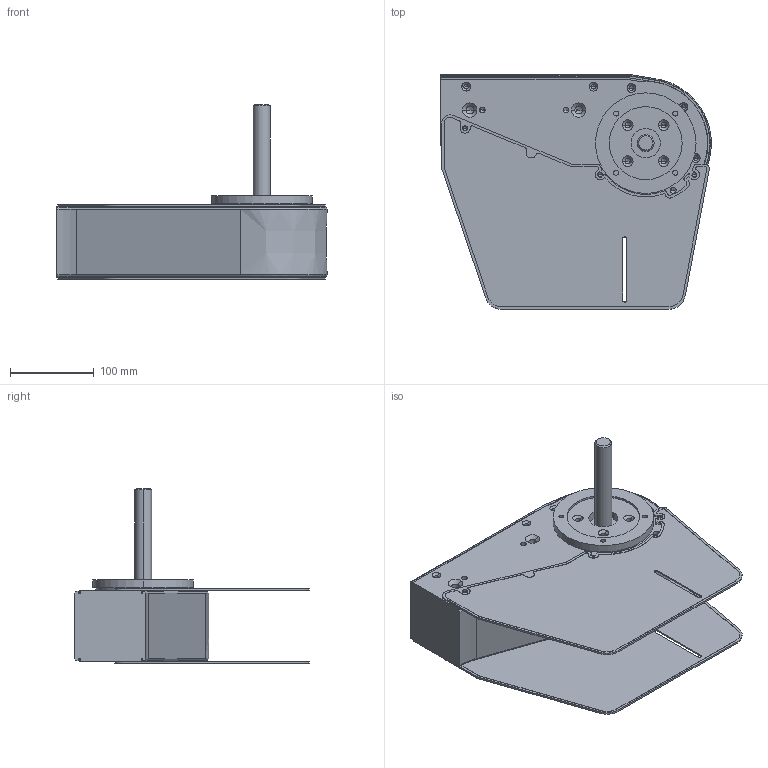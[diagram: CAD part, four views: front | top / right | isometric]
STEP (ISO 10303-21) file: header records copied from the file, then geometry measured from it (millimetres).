
FILE_DESCRIPTION (( 'STEP AP214' ), '1' );
FILE_NAME ('FMDD 85 0R.step', '2017-04-07T11:08:21', ( '' ), ( '' ), 'SwSTEP 2.0', 'SolidWorks 2016', '' );
FILE_SCHEMA (( 'AUTOMOTIVE_DESIGN' ));
Length unit declared in the file: millimetre
Products named in the file (1): FMDD 85 0R
Bounding box: 322.68 x 280.07 x 208.8 mm (x, y, z)
Volume: 3630498.9 mm3; surface area: 385492.7 mm2
Topology: 3 solids, 3 shells, 601 faces, 1588 edges, 972 vertices
Faces by surface type: cylinder 281, plane 165, cone 140, bspline 11, torus 4
Entity records: 22065 total; most frequent: CARTESIAN_POINT 4281, DIRECTION 3284, ORIENTED_EDGE 3024, EDGE_CURVE 1512, AXIS2_PLACEMENT_3D 1224, VERTEX_POINT 972, VECTOR 836, LINE 836
